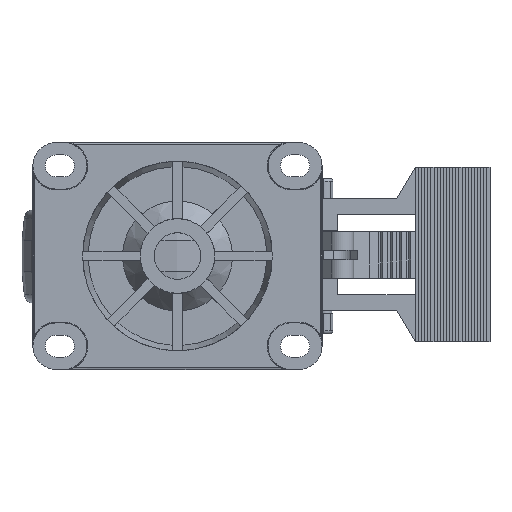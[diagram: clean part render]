
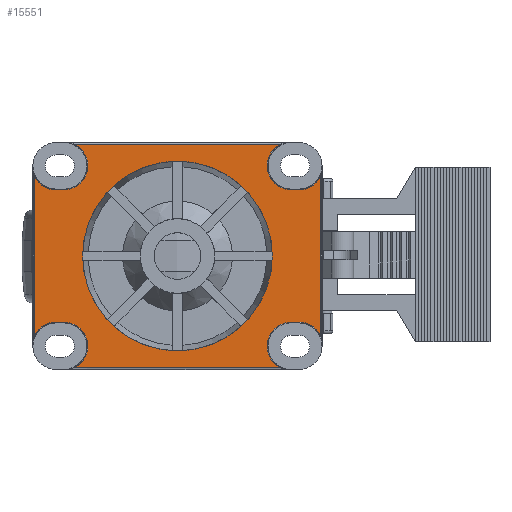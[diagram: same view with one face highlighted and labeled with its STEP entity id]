
A CAD part, top view. The second image highlights one B-rep face of the part: STEP entity #15551.
In plain terms, the highlighted planar face has unit normal (0, 0, 1) as drawn and (0, 0, -1) by its records, which use the part's own axes.
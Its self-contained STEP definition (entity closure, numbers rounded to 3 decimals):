
#492=CARTESIAN_POINT('',(30.5,0.,0.0));
#493=VERTEX_POINT('',#492);
#581=CARTESIAN_POINT('',(-30.5,0.,0.0));
#582=VERTEX_POINT('',#581);
#589=CARTESIAN_POINT('',(0.0,0.0,0.0));
#590=DIRECTION('',(0.0,0.0,1.0));
#591=DIRECTION('',(1.0,0.0,0.0));
#592=AXIS2_PLACEMENT_3D('',#589,#590,#591);
#593=CIRCLE('',#592,30.5);
#594=EDGE_CURVE('',#493,#582,#593,.T.);
#1906=CARTESIAN_POINT('',(-36.576,21.258,0.0));
#1907=VERTEX_POINT('',#1906);
#1915=CARTESIAN_POINT('',(-38.976,21.25,0.0));
#1916=VERTEX_POINT('',#1915);
#1917=CARTESIAN_POINT('',(-36.576,21.258,0.0));
#1918=DIRECTION('',(-1.,-0.003,0.0));
#1919=VECTOR('',#1918,2.4);
#1920=LINE('',#1917,#1919);
#1921=EDGE_CURVE('',#1907,#1916,#1920,.T.);
#1998=CARTESIAN_POINT('',(38.976,21.25,0.0));
#1999=VERTEX_POINT('',#1998);
#2007=CARTESIAN_POINT('',(36.576,21.258,0.0));
#2008=VERTEX_POINT('',#2007);
#2009=CARTESIAN_POINT('',(38.976,21.25,0.0));
#2010=DIRECTION('',(-1.,0.003,0.0));
#2011=VECTOR('',#2010,2.4);
#2012=LINE('',#2009,#2011);
#2013=EDGE_CURVE('',#1999,#2008,#2012,.T.);
#2040=CARTESIAN_POINT('',(46.,-25.674,0.0));
#2041=VERTEX_POINT('',#2040);
#2057=CARTESIAN_POINT('',(46.,25.674,0.0));
#2058=VERTEX_POINT('',#2057);
#2059=CARTESIAN_POINT('',(46.,-25.674,0.0));
#2060=DIRECTION('',(0.0,1.0,0.0));
#2061=VECTOR('',#2060,51.348);
#2062=LINE('',#2059,#2061);
#2063=EDGE_CURVE('',#2041,#2058,#2062,.T.);
#2097=CARTESIAN_POINT('',(36.576,-21.258,0.0));
#2098=VERTEX_POINT('',#2097);
#2106=CARTESIAN_POINT('',(38.976,-21.25,0.0));
#2107=VERTEX_POINT('',#2106);
#2108=CARTESIAN_POINT('',(36.576,-21.258,0.0));
#2109=DIRECTION('',(1.,0.003,0.0));
#2110=VECTOR('',#2109,2.4);
#2111=LINE('',#2108,#2110);
#2112=EDGE_CURVE('',#2098,#2107,#2111,.T.);
#2189=CARTESIAN_POINT('',(-46.0,25.674,0.0));
#2190=VERTEX_POINT('',#2189);
#2206=CARTESIAN_POINT('',(-46.0,-25.674,0.0));
#2207=VERTEX_POINT('',#2206);
#2208=CARTESIAN_POINT('',(-46.0,25.674,0.0));
#2209=DIRECTION('',(0.0,-1.0,0.0));
#2210=VECTOR('',#2209,51.348);
#2211=LINE('',#2208,#2210);
#2212=EDGE_CURVE('',#2190,#2207,#2211,.T.);
#2247=CARTESIAN_POINT('',(-38.976,-21.25,0.0));
#2248=VERTEX_POINT('',#2247);
#2256=CARTESIAN_POINT('',(-36.576,-21.258,0.0));
#2257=VERTEX_POINT('',#2256);
#2258=CARTESIAN_POINT('',(-38.976,-21.25,0.0));
#2259=DIRECTION('',(1.,-0.003,0.0));
#2260=VECTOR('',#2259,2.4);
#2261=LINE('',#2258,#2260);
#2262=EDGE_CURVE('',#2248,#2257,#2261,.T.);
#13571=CARTESIAN_POINT('',(-33.258,-36.,0.0));
#13572=VERTEX_POINT('',#13571);
#13599=CARTESIAN_POINT('',(-36.6,-29.008,0.0));
#13600=DIRECTION('',(0.0,0.0,-1.0));
#13601=DIRECTION('',(0.983,0.182,0.0));
#13602=AXIS2_PLACEMENT_3D('',#13599,#13600,#13601);
#13603=CIRCLE('',#13602,7.75);
#13604=EDGE_CURVE('',#2257,#13572,#13603,.T.);
#14394=CARTESIAN_POINT('',(-39.0,-29.,0.0));
#14395=DIRECTION('',(0.0,0.0,-1.));
#14396=DIRECTION('',(-0.565,0.825,0.0));
#14397=AXIS2_PLACEMENT_3D('',#14394,#14395,#14396);
#14398=CIRCLE('',#14397,7.75);
#14399=EDGE_CURVE('',#2207,#2248,#14398,.T.);
#15090=CARTESIAN_POINT('',(33.258,-36.,0.0));
#15091=VERTEX_POINT('',#15090);
#15196=CARTESIAN_POINT('',(36.6,-29.008,0.0));
#15197=DIRECTION('',(0.0,0.0,-1.));
#15198=DIRECTION('',(-0.983,0.182,0.0));
#15199=AXIS2_PLACEMENT_3D('',#15196,#15197,#15198);
#15200=CIRCLE('',#15199,7.75);
#15201=EDGE_CURVE('',#15091,#2098,#15200,.T.);
#15277=CARTESIAN_POINT('',(39.0,-29.,0.0));
#15278=DIRECTION('',(0.0,0.0,-1.0));
#15279=DIRECTION('',(0.565,0.825,0.0));
#15280=AXIS2_PLACEMENT_3D('',#15277,#15278,#15279);
#15281=CIRCLE('',#15280,7.75);
#15282=EDGE_CURVE('',#2107,#2041,#15281,.T.);
#15480=CARTESIAN_POINT('',(-50.6,-39.6,0.0));
#15481=DIRECTION('',(0.0,0.0,1.0));
#15482=DIRECTION('',(1.0,0.0,0.0));
#15483=AXIS2_PLACEMENT_3D('',#15480,#15481,#15482);
#15484=PLANE('',#15483);
#15485=ORIENTED_EDGE('',*,*,#14399,.F.);
#15486=ORIENTED_EDGE('',*,*,#2212,.F.);
#15487=CARTESIAN_POINT('',(-39.0,29.,0.0));
#15488=DIRECTION('',(0.0,0.0,-1.0));
#15489=DIRECTION('',(-0.565,-0.825,0.0));
#15490=AXIS2_PLACEMENT_3D('',#15487,#15488,#15489);
#15491=CIRCLE('',#15490,7.75);
#15492=EDGE_CURVE('',#1916,#2190,#15491,.T.);
#15493=ORIENTED_EDGE('',*,*,#15492,.F.);
#15494=ORIENTED_EDGE('',*,*,#1921,.F.);
#15495=CARTESIAN_POINT('',(-33.258,36.,0.0));
#15496=VERTEX_POINT('',#15495);
#15497=CARTESIAN_POINT('',(-36.6,29.008,0.0));
#15498=DIRECTION('',(0.0,0.0,-1.));
#15499=DIRECTION('',(0.983,-0.182,0.0));
#15500=AXIS2_PLACEMENT_3D('',#15497,#15498,#15499);
#15501=CIRCLE('',#15500,7.75);
#15502=EDGE_CURVE('',#15496,#1907,#15501,.T.);
#15503=ORIENTED_EDGE('',*,*,#15502,.F.);
#15504=CARTESIAN_POINT('',(33.258,36.,0.0));
#15505=VERTEX_POINT('',#15504);
#15506=CARTESIAN_POINT('',(33.258,36.,0.0));
#15507=DIRECTION('',(-1.0,0.0,0.0));
#15508=VECTOR('',#15507,66.516);
#15509=LINE('',#15506,#15508);
#15510=EDGE_CURVE('',#15505,#15496,#15509,.T.);
#15511=ORIENTED_EDGE('',*,*,#15510,.F.);
#15512=CARTESIAN_POINT('',(36.6,29.008,0.0));
#15513=DIRECTION('',(0.0,0.0,-1.0));
#15514=DIRECTION('',(-0.983,-0.182,0.0));
#15515=AXIS2_PLACEMENT_3D('',#15512,#15513,#15514);
#15516=CIRCLE('',#15515,7.75);
#15517=EDGE_CURVE('',#2008,#15505,#15516,.T.);
#15518=ORIENTED_EDGE('',*,*,#15517,.F.);
#15519=ORIENTED_EDGE('',*,*,#2013,.F.);
#15520=CARTESIAN_POINT('',(39.0,29.,0.0));
#15521=DIRECTION('',(0.0,0.0,-1.));
#15522=DIRECTION('',(0.565,-0.825,0.0));
#15523=AXIS2_PLACEMENT_3D('',#15520,#15521,#15522);
#15524=CIRCLE('',#15523,7.75);
#15525=EDGE_CURVE('',#2058,#1999,#15524,.T.);
#15526=ORIENTED_EDGE('',*,*,#15525,.F.);
#15527=ORIENTED_EDGE('',*,*,#2063,.F.);
#15528=ORIENTED_EDGE('',*,*,#15282,.F.);
#15529=ORIENTED_EDGE('',*,*,#2112,.F.);
#15530=ORIENTED_EDGE('',*,*,#15201,.F.);
#15531=CARTESIAN_POINT('',(-33.258,-36.,0.0));
#15532=DIRECTION('',(1.0,0.0,0.0));
#15533=VECTOR('',#15532,66.516);
#15534=LINE('',#15531,#15533);
#15535=EDGE_CURVE('',#13572,#15091,#15534,.T.);
#15536=ORIENTED_EDGE('',*,*,#15535,.F.);
#15537=ORIENTED_EDGE('',*,*,#13604,.F.);
#15538=ORIENTED_EDGE('',*,*,#2262,.F.);
#15539=EDGE_LOOP('',(#15485,#15486,#15493,#15494,#15503,#15511,#15518,#15519,#15526,#15527,#15528,#15529,#15530,#15536,#15537,#15538));
#15540=FACE_OUTER_BOUND('',#15539,.T.);
#15541=CARTESIAN_POINT('',(0.0,0.0,0.0));
#15542=DIRECTION('',(0.0,0.0,1.0));
#15543=DIRECTION('',(1.0,0.0,0.0));
#15544=AXIS2_PLACEMENT_3D('',#15541,#15542,#15543);
#15545=CIRCLE('',#15544,30.5);
#15546=EDGE_CURVE('',#582,#493,#15545,.T.);
#15547=ORIENTED_EDGE('',*,*,#15546,.T.);
#15548=ORIENTED_EDGE('',*,*,#594,.T.);
#15549=EDGE_LOOP('',(#15547,#15548));
#15550=FACE_BOUND('',#15549,.T.);
#15551=ADVANCED_FACE('',(#15540,#15550),#15484,.F.);
